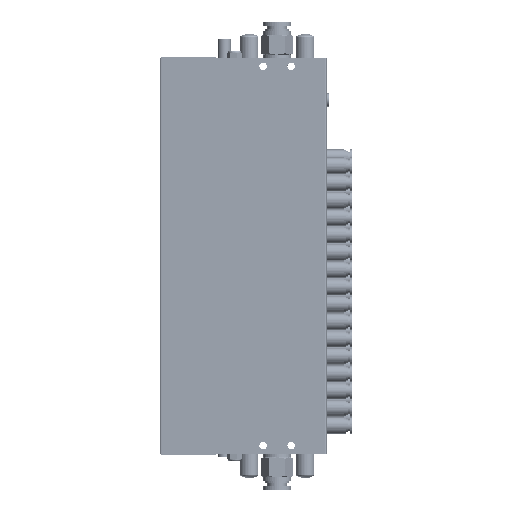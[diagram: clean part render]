
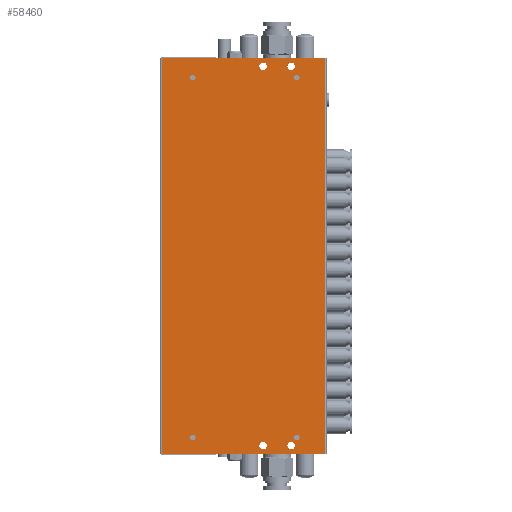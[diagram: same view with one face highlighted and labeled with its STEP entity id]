
A CAD part, front view. The second image highlights one B-rep face of the part: STEP entity #58460.
In plain terms, the highlighted planar face has unit normal (0, -1, 0).
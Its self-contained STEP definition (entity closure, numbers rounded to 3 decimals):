
#41229=FACE_BOUND('',#77200,.T.);
#41230=FACE_BOUND('',#77201,.T.);
#41231=FACE_BOUND('',#77202,.T.);
#41232=FACE_BOUND('',#77203,.T.);
#41233=FACE_BOUND('',#77204,.T.);
#41234=FACE_BOUND('',#77205,.T.);
#41235=FACE_BOUND('',#77206,.T.);
#41236=FACE_BOUND('',#77207,.T.);
#41237=FACE_BOUND('',#77208,.T.);
#49922=CIRCLE('',#170780,2.25);
#49923=CIRCLE('',#170782,2.25);
#49955=CIRCLE('',#170841,1.65);
#49957=CIRCLE('',#170844,1.65);
#50269=CIRCLE('',#171490,1.65);
#50270=CIRCLE('',#171491,1.65);
#50271=CIRCLE('',#171492,2.25);
#50272=CIRCLE('',#171493,2.25);
#58460=ADVANCED_FACE('',(#41229,#41230,#41231,#41232,#41233,#41234,#41235,
#41236,#41237),#63313,.T.);
#63313=PLANE('',#171494);
#77200=EDGE_LOOP('',(#107954,#107955,#107956,#107957));
#77201=EDGE_LOOP('',(#107958));
#77202=EDGE_LOOP('',(#107959));
#77203=EDGE_LOOP('',(#107960));
#77204=EDGE_LOOP('',(#107961));
#77205=EDGE_LOOP('',(#107962));
#77206=EDGE_LOOP('',(#107963));
#77207=EDGE_LOOP('',(#107964));
#77208=EDGE_LOOP('',(#107965));
#107954=ORIENTED_EDGE('',*,*,#140275,.T.);
#107955=ORIENTED_EDGE('',*,*,#140840,.T.);
#107956=ORIENTED_EDGE('',*,*,#140285,.T.);
#107957=ORIENTED_EDGE('',*,*,#140327,.F.);
#107958=ORIENTED_EDGE('',*,*,#140335,.F.);
#107959=ORIENTED_EDGE('',*,*,#140334,.F.);
#107960=ORIENTED_EDGE('',*,*,#140368,.F.);
#107961=ORIENTED_EDGE('',*,*,#140370,.T.);
#107962=ORIENTED_EDGE('',*,*,#140841,.T.);
#107963=ORIENTED_EDGE('',*,*,#140842,.F.);
#107964=ORIENTED_EDGE('',*,*,#140843,.F.);
#107965=ORIENTED_EDGE('',*,*,#140844,.F.);
#123909=VERTEX_POINT('',#253116);
#123910=VERTEX_POINT('',#253118);
#123919=VERTEX_POINT('',#253140);
#123920=VERTEX_POINT('',#253141);
#123963=VERTEX_POINT('',#253240);
#123964=VERTEX_POINT('',#253243);
#123997=VERTEX_POINT('',#253405);
#123999=VERTEX_POINT('',#253410);
#124440=VERTEX_POINT('',#259017);
#124441=VERTEX_POINT('',#259019);
#124442=VERTEX_POINT('',#259021);
#124443=VERTEX_POINT('',#259023);
#140275=EDGE_CURVE('',#123910,#123909,#151182,.T.);
#140285=EDGE_CURVE('',#123919,#123920,#151187,.T.);
#140327=EDGE_CURVE('',#123910,#123920,#151209,.T.);
#140334=EDGE_CURVE('',#123963,#123963,#49922,.T.);
#140335=EDGE_CURVE('',#123964,#123964,#49923,.T.);
#140368=EDGE_CURVE('',#123997,#123997,#49955,.T.);
#140370=EDGE_CURVE('',#123999,#123999,#49957,.T.);
#140840=EDGE_CURVE('',#123909,#123919,#151292,.T.);
#140841=EDGE_CURVE('',#124440,#124440,#50269,.T.);
#140842=EDGE_CURVE('',#124441,#124441,#50270,.T.);
#140843=EDGE_CURVE('',#124442,#124442,#50271,.T.);
#140844=EDGE_CURVE('',#124443,#124443,#50272,.T.);
#151182=LINE('',#253117,#158872);
#151187=LINE('',#253139,#158877);
#151209=LINE('',#253227,#158899);
#151292=LINE('',#259015,#158982);
#158872=VECTOR('',#203934,1.);
#158877=VECTOR('',#203955,1.);
#158899=VECTOR('',#204027,1.);
#158982=VECTOR('',#205540,1.);
#170780=AXIS2_PLACEMENT_3D('',#253239,#204041,#204042);
#170782=AXIS2_PLACEMENT_3D('',#253242,#204045,#204046);
#170841=AXIS2_PLACEMENT_3D('',#253404,#204163,#204164);
#170844=AXIS2_PLACEMENT_3D('',#253409,#204169,#204170);
#171490=AXIS2_PLACEMENT_3D('',#259016,#205541,#205542);
#171491=AXIS2_PLACEMENT_3D('',#259018,#205543,#205544);
#171492=AXIS2_PLACEMENT_3D('',#259020,#205545,#205546);
#171493=AXIS2_PLACEMENT_3D('',#259022,#205547,#205548);
#171494=AXIS2_PLACEMENT_3D('',#259024,#205549,#205550);
#203934=DIRECTION('',(0.,0.,-1.));
#203955=DIRECTION('',(0.,0.,1.));
#204027=DIRECTION('',(1.,0.,0.));
#204041=DIRECTION('',(0.,-1.,0.));
#204042=DIRECTION('',(0.,0.,-1.));
#204045=DIRECTION('',(0.,-1.,0.));
#204046=DIRECTION('',(0.,0.,-1.));
#204163=DIRECTION('',(0.,-1.,0.));
#204164=DIRECTION('',(0.,0.,-1.));
#204169=DIRECTION('',(0.,1.,0.));
#204170=DIRECTION('',(0.,0.,-1.));
#205540=DIRECTION('',(1.,0.,0.));
#205541=DIRECTION('',(0.,1.,0.));
#205542=DIRECTION('',(0.,0.,-1.));
#205543=DIRECTION('',(0.,-1.,0.));
#205544=DIRECTION('',(0.,0.,-1.));
#205545=DIRECTION('',(0.,-1.,0.));
#205546=DIRECTION('',(0.,0.,-1.));
#205547=DIRECTION('',(0.,-1.,0.));
#205548=DIRECTION('',(0.,0.,-1.));
#205549=DIRECTION('',(0.,-1.,0.));
#205550=DIRECTION('',(0.,0.,-1.));
#253116=CARTESIAN_POINT('',(-50.5,-23.,-168.));
#253117=CARTESIAN_POINT('',(-50.5,-23.,-39.));
#253118=CARTESIAN_POINT('',(-50.5,-23.,72.));
#253139=CARTESIAN_POINT('',(48.5,-23.,72.));
#253140=CARTESIAN_POINT('',(48.5,-23.,-168.));
#253141=CARTESIAN_POINT('',(48.5,-23.,72.));
#253227=CARTESIAN_POINT('',(52.5,-23.,72.));
#253239=CARTESIAN_POINT('',(11.,-23.,67.));
#253240=CARTESIAN_POINT('',(11.,-23.,64.75));
#253242=CARTESIAN_POINT('',(28.,-23.,67.));
#253243=CARTESIAN_POINT('',(28.,-23.,64.75));
#253404=CARTESIAN_POINT('',(31.5,-23.,60.));
#253405=CARTESIAN_POINT('',(31.5,-23.,58.35));
#253409=CARTESIAN_POINT('',(-31.5,-23.,60.));
#253410=CARTESIAN_POINT('',(-31.5,-23.,58.35));
#259015=CARTESIAN_POINT('',(52.5,-23.,-168.));
#259016=CARTESIAN_POINT('',(-31.5,-23.,-158.));
#259017=CARTESIAN_POINT('',(-31.5,-23.,-159.65));
#259018=CARTESIAN_POINT('',(31.5,-23.,-158.));
#259019=CARTESIAN_POINT('',(31.5,-23.,-159.65));
#259020=CARTESIAN_POINT('',(11.,-23.,-163.));
#259021=CARTESIAN_POINT('',(11.,-23.,-165.25));
#259022=CARTESIAN_POINT('',(28.,-23.,-163.));
#259023=CARTESIAN_POINT('',(28.,-23.,-165.25));
#259024=CARTESIAN_POINT('',(-52.5,-23.,-39.));
